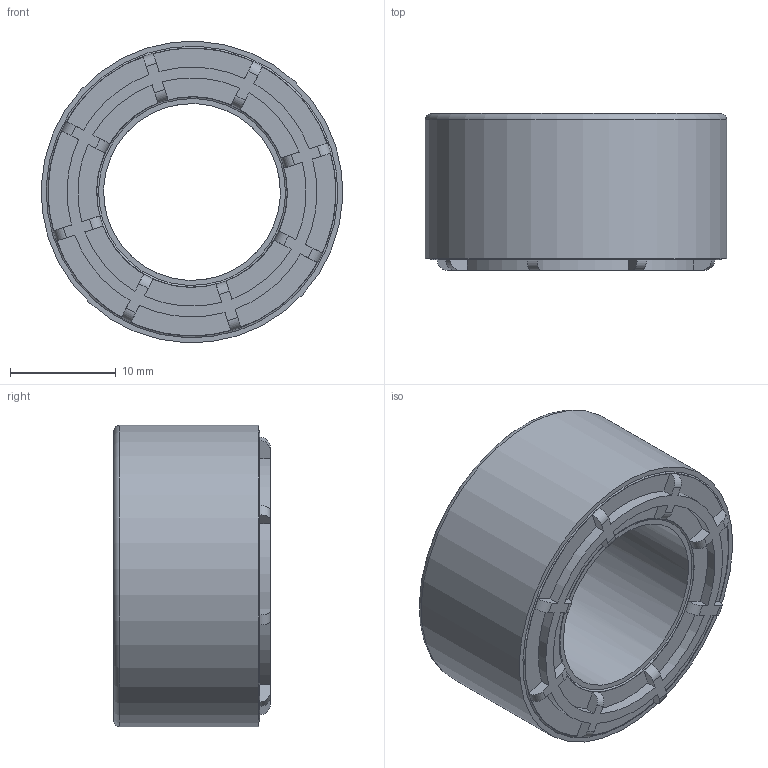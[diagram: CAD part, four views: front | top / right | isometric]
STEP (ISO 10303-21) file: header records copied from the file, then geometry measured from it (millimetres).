
FILE_DESCRIPTION(/* description */ (''),/* implementation_level */ '2;1');
FILE_NAME(/* name */ 'G:\KB-FTKon\CAD\Inventor\Kundenmodelle\Kerne\V321\V321_Shrinkwrap_1.stp',/* time_stamp */ '2020-01-13T12:47:13+01:00',/* author */ ('de881284'),/* organization */ (''),/* preprocessor_version */ 'ST-DEVELOPER v18',/* originating_system */ 'Autodesk Inventor 2020',/* authorisation */ '');
FILE_SCHEMA (('AUTOMOTIVE_DESIGN { 1 0 10303 214 3 1 1 }'));
Length unit declared in the file: millimetre
Products named in the file (1): V321_Shrinkwrap_1
Bounding box: 28.47 x 14.8 x 28.47 mm (x, y, z)
Volume: 5630 mm3; surface area: 3158.9 mm2
Topology: 1 solids, 1 shells, 195 faces, 518 edges, 335 vertices
Faces by surface type: plane 116, cylinder 60, torus 19
Full cylindrical faces by diameter (mm): 16.7 x1, 18 x1, 27.2 x1, 28.5 x1
Entity records: 6551 total; most frequent: CARTESIAN_POINT 1337, DIRECTION 1072, ORIENTED_EDGE 1036, EDGE_CURVE 518, AXIS2_PLACEMENT_3D 390, VERTEX_POINT 335, LINE 292, VECTOR 292
